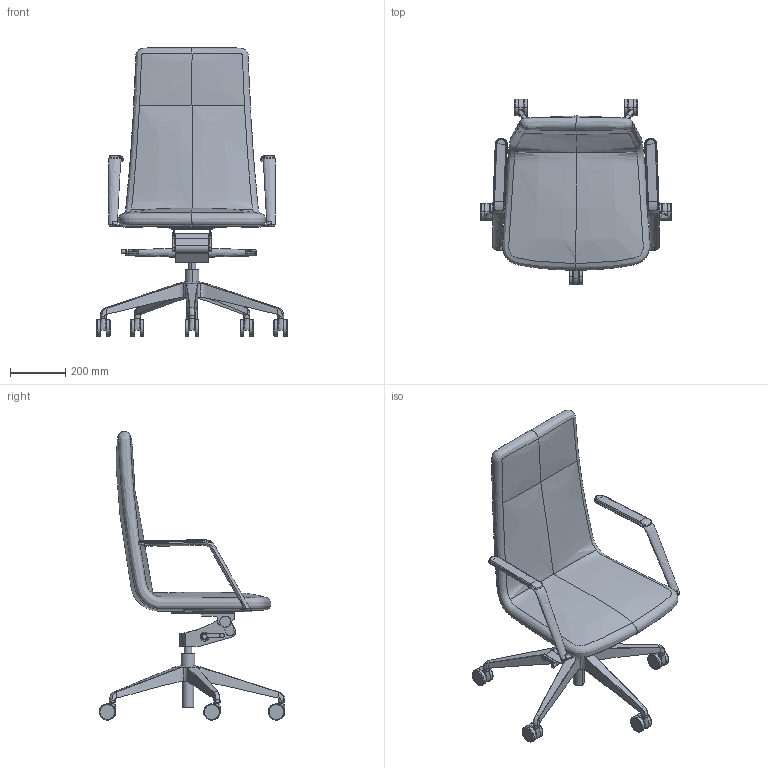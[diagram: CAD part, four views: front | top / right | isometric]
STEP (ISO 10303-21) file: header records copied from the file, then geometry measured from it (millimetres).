
FILE_DESCRIPTION(/* description */ (''),/* implementation_level */ '2;1');
FILE_NAME(/* name */ 'HARMON~2',/* time_stamp */ '2016-09-30T16:38:38+02:00',/* author */ (''),/* organization */ (''),/* preprocessor_version */ 'ST-DEVELOPER v15',/* originating_system */ '',/* authorisation */ '');
FILE_SCHEMA (('CONFIG_CONTROL_DESIGN'));
Length unit declared in the file: millimetre
Products named in the file (1): Document
Bounding box: 694.82 x 673.73 x 1046.97 mm (x, y, z)
Volume: 30415614.6 mm3; surface area: 1785694.8 mm2
Topology: 9 solids, 44 shells, 431 faces, 1037 edges, 621 vertices
Faces by surface type: bspline 333, plane 98
Entity records: 25888 total; most frequent: CARTESIAN_POINT 20142, ORIENTED_EDGE 1874, EDGE_CURVE 1005, VERTEX_POINT 615, EDGE_LOOP 433, ADVANCED_FACE 431, FACE_OUTER_BOUND 431, B_SPLINE_CURVE_WITH_KNOTS 389
